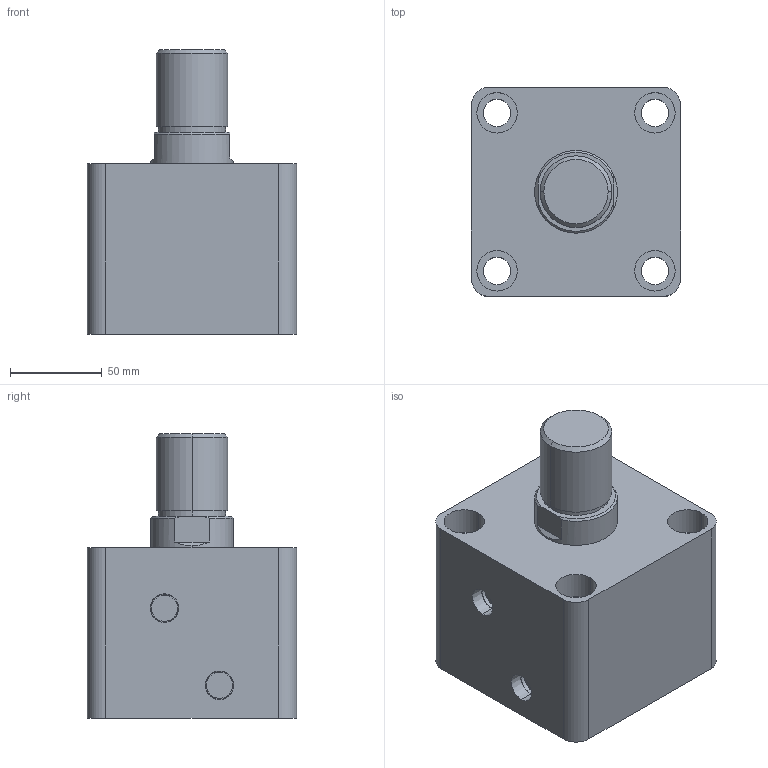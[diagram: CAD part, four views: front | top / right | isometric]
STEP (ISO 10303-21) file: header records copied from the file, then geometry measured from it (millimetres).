
FILE_DESCRIPTION (( 'STEP AP203' ), '1' );
FILE_NAME ('HTB-SD80-15W.STEP', '2019-10-07T08:14:09', ( '微软用户' ), ( '微软中国' ), 'SwSTEP 2.0', 'SolidWorks 2012', '' );
FILE_SCHEMA (( 'CONFIG_CONTROL_DESIGN' ));
Length unit declared in the file: millimetre
Products named in the file (3): HTB-SD80-15W; HTB-SD80-15W活塞杆; HTB-SD80-15掛极
Assembly tree (2 placements, depth 2):
  HTB-SD80-15W
    HTB-SD80-15掛极
    HTB-SD80-15W活塞杆
Bounding box: 114 x 114 x 155 mm (x, y, z)
Volume: 1134505 mm3; surface area: 141480.8 mm2
Topology: 2 solids, 2 shells, 87 faces, 190 edges, 124 vertices
Faces by surface type: cylinder 44, plane 29, cone 8, torus 6
Entity records: 2761 total; most frequent: DIRECTION 478, CARTESIAN_POINT 434, ORIENTED_EDGE 380, AXIS2_PLACEMENT_3D 204, EDGE_CURVE 190, VERTEX_POINT 124, EDGE_LOOP 112, CIRCLE 112
